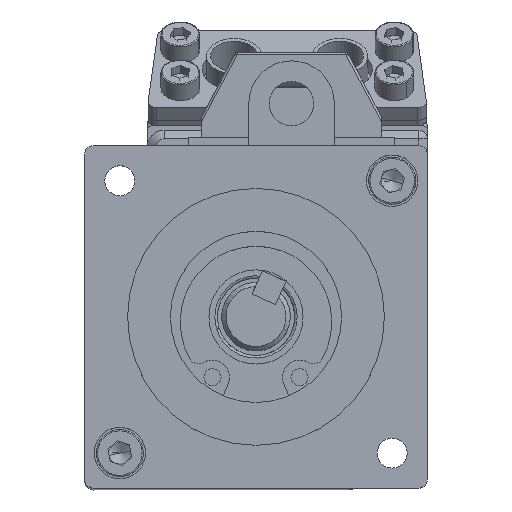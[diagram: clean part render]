
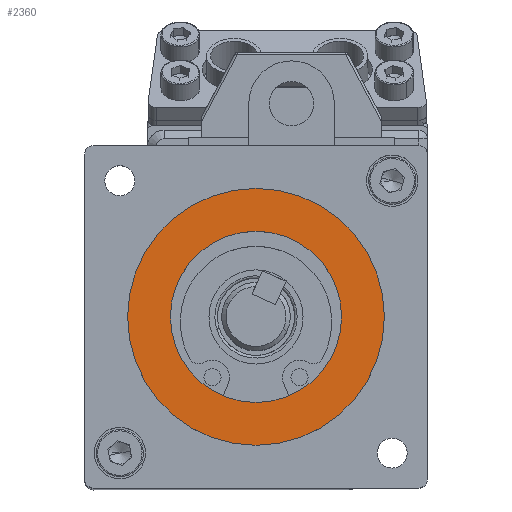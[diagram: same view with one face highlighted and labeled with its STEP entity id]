
A CAD part, top view. The second image highlights one B-rep face of the part: STEP entity #2360.
In plain terms, the highlighted planar face has unit normal (0, 0, 1).
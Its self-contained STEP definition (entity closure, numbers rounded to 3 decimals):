
#2103 = EDGE_CURVE ( 'NONE', #2104, #2105, #9001, .T. ) ;
#2104 = VERTEX_POINT ( 'NONE', #8996 ) ;
#2105 = VERTEX_POINT ( 'NONE', #8995 ) ;
#2185 = EDGE_CURVE ( 'NONE', #2186, #2187, #9021, .T. ) ;
#2186 = VERTEX_POINT ( 'NONE', #9011 ) ;
#2187 = VERTEX_POINT ( 'NONE', #9010 ) ;
#2356 = EDGE_CURVE ( 'NONE', #2187, #2186, #9327, .T. ) ;
#2360 = ADVANCED_FACE ( 'NONE', ( #9313, #9312 ), #9311, .T. ) ;
#2361 = EDGE_LOOP ( 'NONE', ( #2702, #2703 ) ) ;
#2702 = ORIENTED_EDGE ( 'NONE', *, *, #2103, .F. ) ;
#2703 = ORIENTED_EDGE ( 'NONE', *, *, #2704, .F. ) ;
#2704 = EDGE_CURVE ( 'NONE', #2105, #2104, #9824, .T. ) ;
#2705 = EDGE_LOOP ( 'NONE', ( #2706, #2707 ) ) ;
#2706 = ORIENTED_EDGE ( 'NONE', *, *, #2356, .T. ) ;
#2707 = ORIENTED_EDGE ( 'NONE', *, *, #2185, .T. ) ;
#8995 = CARTESIAN_POINT ( 'NONE',  ( 83.478, 20., 115.595 ) ) ;
#8996 = CARTESIAN_POINT ( 'NONE',  ( 53.478, 20., 115.595 ) ) ;
#8997 = DIRECTION ( 'NONE',  ( -1., 0., 0. ) ) ;
#8998 = DIRECTION ( 'NONE',  ( 0., 0., -1. ) ) ;
#8999 = CARTESIAN_POINT ( 'NONE',  ( 68.478, 20., 115.595 ) ) ;
#9000 = AXIS2_PLACEMENT_3D ( 'NONE', #8999, #8998, #8997 ) ;
#9001 = CIRCLE ( 'NONE', #9000, 15. ) ;
#9010 = CARTESIAN_POINT ( 'NONE',  ( 58.478, 20., 115.595 ) ) ;
#9011 = CARTESIAN_POINT ( 'NONE',  ( 78.478, 20., 115.595 ) ) ;
#9012 = DIRECTION ( 'NONE',  ( -1., 0., 0. ) ) ;
#9013 = DIRECTION ( 'NONE',  ( 0., 0., -1. ) ) ;
#9014 = CARTESIAN_POINT ( 'NONE',  ( 68.478, 20., 115.595 ) ) ;
#9015 = AXIS2_PLACEMENT_3D ( 'NONE', #9014, #9013, #9012 ) ;
#9021 = CIRCLE ( 'NONE', #9015, 10. ) ;
#9306 = DIRECTION ( 'NONE',  ( 1., 0., 0. ) ) ;
#9307 = DIRECTION ( 'NONE',  ( 0., 0., 1. ) ) ;
#9308 = AXIS2_PLACEMENT_3D ( 'NONE', #9310, #9307, #9306 ) ;
#9310 = CARTESIAN_POINT ( 'NONE',  ( 68.478, 20., 115.595 ) ) ;
#9311 = PLANE ( 'NONE',  #9308 ) ;
#9312 = FACE_BOUND ( 'NONE', #2705, .T. ) ;
#9313 = FACE_OUTER_BOUND ( 'NONE', #2361, .T. ) ;
#9319 = DIRECTION ( 'NONE',  ( -1., 0., 0. ) ) ;
#9320 = DIRECTION ( 'NONE',  ( 0., 0., -1. ) ) ;
#9321 = CARTESIAN_POINT ( 'NONE',  ( 68.478, 20., 115.595 ) ) ;
#9322 = AXIS2_PLACEMENT_3D ( 'NONE', #9321, #9320, #9319 ) ;
#9327 = CIRCLE ( 'NONE', #9322, 10. ) ;
#9820 = DIRECTION ( 'NONE',  ( -1., 0., 0. ) ) ;
#9821 = DIRECTION ( 'NONE',  ( 0., 0., -1. ) ) ;
#9822 = CARTESIAN_POINT ( 'NONE',  ( 68.478, 20., 115.595 ) ) ;
#9823 = AXIS2_PLACEMENT_3D ( 'NONE', #9822, #9821, #9820 ) ;
#9824 = CIRCLE ( 'NONE', #9823, 15. ) ;
